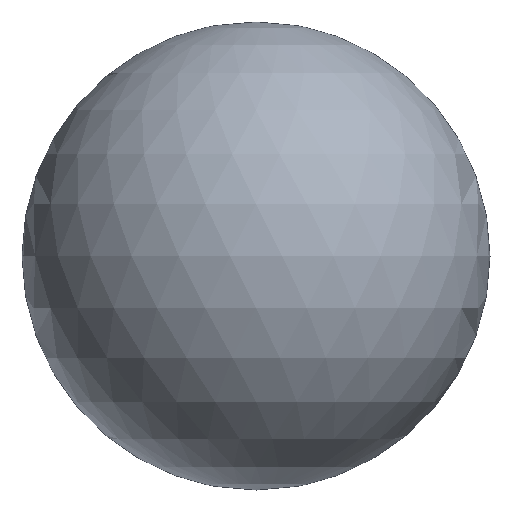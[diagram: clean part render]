
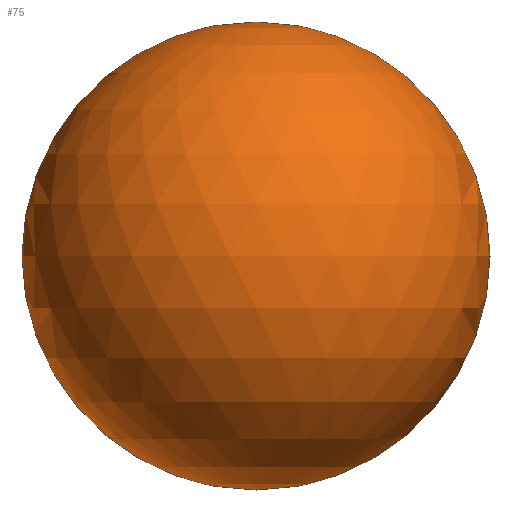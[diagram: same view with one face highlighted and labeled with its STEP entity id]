
A CAD part, front view. The second image highlights one B-rep face of the part: STEP entity #75.
In plain terms, the highlighted spherical face has radius 508 mm.
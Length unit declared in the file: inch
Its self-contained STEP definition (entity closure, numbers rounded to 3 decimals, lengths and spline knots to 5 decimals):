
#55=CARTESIAN_POINT('',(0.,0.,-20.0));
#56=VERTEX_POINT('',#55);
#57=CARTESIAN_POINT('',(0.0,0.0,0.0));
#58=DIRECTION('',(0.0,-1.0,0.0));
#59=DIRECTION('',(0.0,0.0,1.0));
#60=AXIS2_PLACEMENT_3D('',#57,#58,#59);
#61=CIRCLE('',#60,20.0);
#62=EDGE_CURVE('',#56,#56,#61,.T.);
#67=CARTESIAN_POINT('',(0.0,0.0,0.0));
#68=DIRECTION('',(0.0,0.0,1.0));
#69=DIRECTION('',(1.0,0.0,0.0));
#70=AXIS2_PLACEMENT_3D('',#67,#68,#69);
#71=SPHERICAL_SURFACE('',#70,20.0);
#72=ORIENTED_EDGE('',*,*,#62,.T.);
#73=EDGE_LOOP('',(#72));
#74=FACE_OUTER_BOUND('',#73,.T.);
#75=ADVANCED_FACE('',(#74),#71,.T.);
